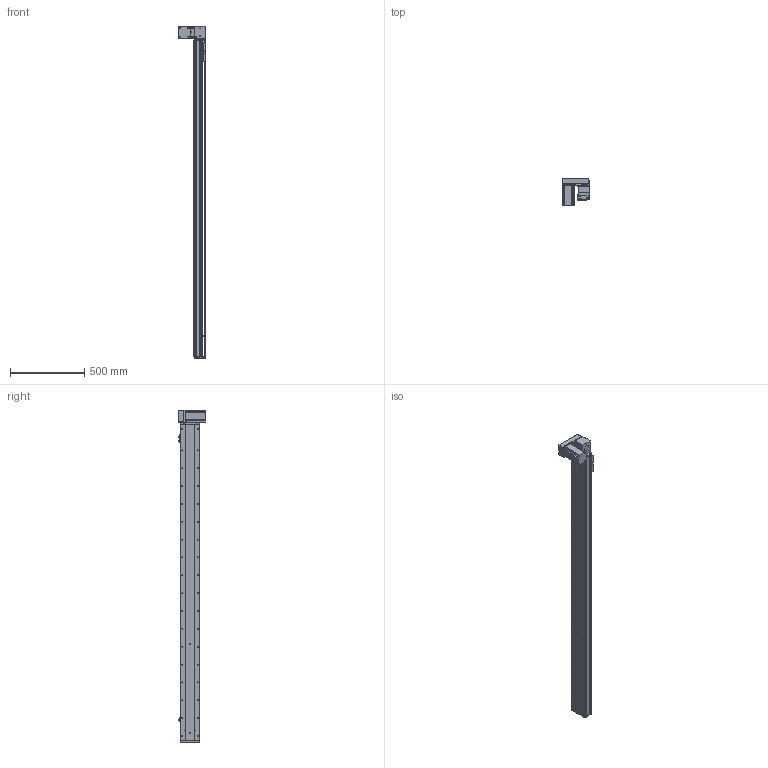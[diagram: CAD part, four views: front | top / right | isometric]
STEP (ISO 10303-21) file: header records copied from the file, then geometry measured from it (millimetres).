
FILE_DESCRIPTION (( 'STEP AP214' ), '1' );
FILE_NAME ('KSD130B-S1900-MRD-CM.STEP', '2019-09-23T02:01:18', ( '微软用户' ), ( '微软中国' ), 'SwSTEP 2.0', 'SolidWorks 2014', '' );
FILE_SCHEMA (( 'AUTOMOTIVE_DESIGN' ));
Length unit declared in the file: millimetre
Products named in the file (12): KSD130B-S1900-MRD-CM; 130宽模组保护罩上下左右折-同步带; 台达ECMA－C20807AS伺服电机; 130宽模组马达安装板连板上下折丝杆同步带; 覜茼え100遵圉猾敕; U倰嫖萇EEㄜSX672; 130宽盖板半封闭同步带-1900行程; 130宽马达安装板同步带右-改镜向_默认<按加工>; 130宽马达安装板同步带半封闭; 130宽同步带安装座半封闭; 130宽端盖同步带半封闭; 130宽底板半封闭同步带-1900行程
Assembly tree (13 placements, depth 2):
  KSD130B-S1900-MRD-CM
    130宽底板半封闭同步带-1900行程
    130宽端盖同步带半封闭
    130宽同步带安装座半封闭
    130宽马达安装板同步带半封闭
    130宽马达安装板同步带右-改镜向_默认<按加工>
    130宽盖板半封闭同步带-1900行程
    U倰嫖萇EEㄜSX672  x3
    覜茼え100遵圉猾敕
    130宽模组马达安装板连板上下折丝杆同步带
    台达ECMA－C20807AS伺服电机
    130宽模组保护罩上下左右折-同步带
Bounding box: 186 x 184.8 x 2233 mm (x, y, z)
Volume: 7394104.4 mm3; surface area: 2101491.1 mm2
Topology: 14 solids, 14 shells, 1757 faces, 5125 edges, 3241 vertices
Faces by surface type: cylinder 868, plane 654, cone 235
Entity records: 60127 total; most frequent: CARTESIAN_POINT 11674, DIRECTION 9055, ORIENTED_EDGE 8766, EDGE_CURVE 4383, AXIS2_PLACEMENT_3D 3342, VERTEX_POINT 2865, LINE 2371, VECTOR 2371
